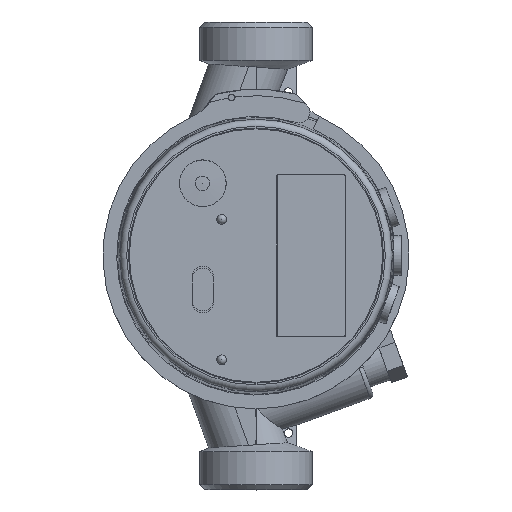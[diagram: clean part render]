
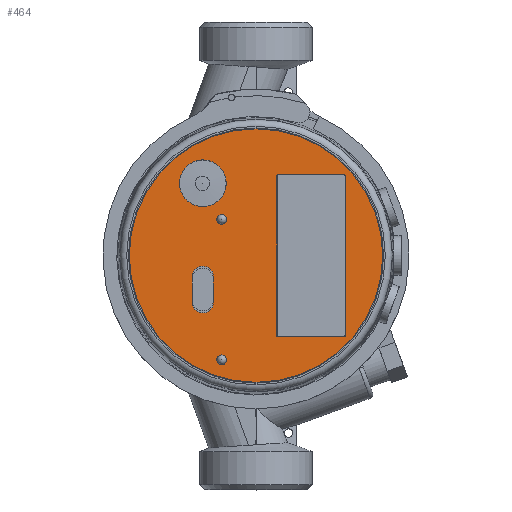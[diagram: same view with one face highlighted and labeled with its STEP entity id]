
A CAD part, top view. The second image highlights one B-rep face of the part: STEP entity #464.
In plain terms, the highlighted planar face has unit normal (0, 0, 1).
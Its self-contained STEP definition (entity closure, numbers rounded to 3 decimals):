
#464=ADVANCED_FACE('',(#5489,#5491,#5493,#5495,#5497,#5499),#5501,.T.);
#5489=FACE_BOUND('',#5490,.T.);
#5490=EDGE_LOOP('',(#8675));
#5491=FACE_BOUND('',#5492,.T.);
#5492=EDGE_LOOP('',(#8676,#8677,#8678,#8679,#8680,#8681,#8682,#8683));
#5493=FACE_BOUND('',#5494,.T.);
#5494=EDGE_LOOP('',(#8684));
#5495=FACE_BOUND('',#5496,.T.);
#5496=EDGE_LOOP('',(#8685));
#5497=FACE_BOUND('',#5498,.T.);
#5498=EDGE_LOOP('',(#8686));
#5499=FACE_BOUND('',#5500,.T.);
#5500=EDGE_LOOP('',(#8687,#8688,#8689,#8690,#8691,#8692,#8693,#8694));
#5501=PLANE('',#5502);
#5502=AXIS2_PLACEMENT_3D('',#5503,#5504,#5505);
#5503=CARTESIAN_POINT('',(0.,0.,58.8));
#5504=DIRECTION('',(0.,0.,1.));
#5505=DIRECTION('',(0.,1.,0.));
#8675=ORIENTED_EDGE('',*,*,#10481,.T.);
#8676=ORIENTED_EDGE('',*,*,#10482,.T.);
#8677=ORIENTED_EDGE('',*,*,#10483,.T.);
#8678=ORIENTED_EDGE('',*,*,#10484,.T.);
#8679=ORIENTED_EDGE('',*,*,#10485,.T.);
#8680=ORIENTED_EDGE('',*,*,#10486,.T.);
#8681=ORIENTED_EDGE('',*,*,#10487,.T.);
#8682=ORIENTED_EDGE('',*,*,#10488,.T.);
#8683=ORIENTED_EDGE('',*,*,#10489,.T.);
#8684=ORIENTED_EDGE('',*,*,#10490,.T.);
#8685=ORIENTED_EDGE('',*,*,#10491,.T.);
#8686=ORIENTED_EDGE('',*,*,#10492,.T.);
#8687=ORIENTED_EDGE('',*,*,#10493,.F.);
#8688=ORIENTED_EDGE('',*,*,#10494,.T.);
#8689=ORIENTED_EDGE('',*,*,#10495,.F.);
#8690=ORIENTED_EDGE('',*,*,#10496,.T.);
#8691=ORIENTED_EDGE('',*,*,#10497,.F.);
#8692=ORIENTED_EDGE('',*,*,#10498,.T.);
#8693=ORIENTED_EDGE('',*,*,#10499,.F.);
#8694=ORIENTED_EDGE('',*,*,#10500,.T.);
#10481=EDGE_CURVE('',#12637,#12637,#12638,.T.);
#10482=EDGE_CURVE('',#12639,#12640,#12641,.T.);
#10483=EDGE_CURVE('',#12640,#12642,#12643,.F.);
#10484=EDGE_CURVE('',#12642,#12644,#12645,.F.);
#10485=EDGE_CURVE('',#12644,#12646,#12647,.F.);
#10486=EDGE_CURVE('',#12646,#12648,#12649,.T.);
#10487=EDGE_CURVE('',#12648,#12650,#12651,.F.);
#10488=EDGE_CURVE('',#12650,#12652,#12653,.F.);
#10489=EDGE_CURVE('',#12652,#12639,#12654,.F.);
#10490=EDGE_CURVE('',#12655,#12655,#12656,.F.);
#10491=EDGE_CURVE('',#12657,#12657,#12658,.F.);
#10492=EDGE_CURVE('',#12659,#12659,#12660,.F.);
#10493=EDGE_CURVE('',#12661,#12662,#12663,.F.);
#10494=EDGE_CURVE('',#12661,#12664,#12665,.F.);
#10495=EDGE_CURVE('',#12666,#12664,#12667,.F.);
#10496=EDGE_CURVE('',#12666,#12668,#12669,.F.);
#10497=EDGE_CURVE('',#12670,#12668,#12671,.F.);
#10498=EDGE_CURVE('',#12670,#12672,#12673,.F.);
#10499=EDGE_CURVE('',#12674,#12672,#12675,.F.);
#10500=EDGE_CURVE('',#12674,#12662,#12676,.F.);
#12637=VERTEX_POINT('',#24341);
#12638=CIRCLE('',#24342,29.8);
#12639=VERTEX_POINT('',#24346);
#12640=VERTEX_POINT('',#24347);
#12641=LINE('',#24348,#24349);
#12642=VERTEX_POINT('',#24351);
#12643=LINE('',#24352,#24353);
#12644=VERTEX_POINT('',#24355);
#12645=CIRCLE('',#24356,2.5);
#12646=VERTEX_POINT('',#24360);
#12647=LINE('',#24361,#24362);
#12648=VERTEX_POINT('',#24364);
#12649=LINE('',#24365,#24366);
#12650=VERTEX_POINT('',#24368);
#12651=LINE('',#24369,#24370);
#12652=VERTEX_POINT('',#24372);
#12653=CIRCLE('',#24373,2.5);
#12654=LINE('',#24377,#24378);
#12655=VERTEX_POINT('',#24380);
#12656=CIRCLE('',#24381,1.15);
#12657=VERTEX_POINT('',#24385);
#12658=CIRCLE('',#24386,1.15);
#12659=VERTEX_POINT('',#24390);
#12660=CIRCLE('',#24391,5.5);
#12661=VERTEX_POINT('',#24395);
#12662=VERTEX_POINT('',#24396);
#12663=CIRCLE('',#24397,0.5);
#12664=VERTEX_POINT('',#24401);
#12665=LINE('',#24402,#24403);
#12666=VERTEX_POINT('',#24405);
#12667=CIRCLE('',#24406,0.3);
#12668=VERTEX_POINT('',#24410);
#12669=LINE('',#24411,#24412);
#12670=VERTEX_POINT('',#24414);
#12671=CIRCLE('',#24415,0.3);
#12672=VERTEX_POINT('',#24419);
#12673=LINE('',#24420,#24421);
#12674=VERTEX_POINT('',#24423);
#12675=CIRCLE('',#24424,0.5);
#12676=LINE('',#24428,#24429);
#24341=CARTESIAN_POINT('',(0.,29.8,58.8));
#24342=AXIS2_PLACEMENT_3D('',#24343,#24344,#24345);
#24343=CARTESIAN_POINT('',(0.,0.,58.8));
#24344=DIRECTION('',(0.,0.,1.));
#24345=DIRECTION('',(0.,1.,0.));
#24346=CARTESIAN_POINT('',(-15.,-10.5,58.8));
#24347=CARTESIAN_POINT('',(-15.,-5.5,58.8));
#24348=CARTESIAN_POINT('',(-15.,-10.5,58.8));
#24349=VECTOR('',#24350,1.);
#24350=DIRECTION('',(0.,1.,0.));
#24351=CARTESIAN_POINT('',(-15.,-5.,58.8));
#24352=CARTESIAN_POINT('',(-15.,-5.,58.8));
#24353=VECTOR('',#24354,1.);
#24354=DIRECTION('',(0.,-1.,0.));
#24355=CARTESIAN_POINT('',(-10.,-5.,58.8));
#24356=AXIS2_PLACEMENT_3D('',#24357,#24358,#24359);
#24357=CARTESIAN_POINT('',(-12.5,-5.,58.8));
#24358=DIRECTION('',(0.,0.,1.));
#24359=DIRECTION('',(1.,0.,0.));
#24360=CARTESIAN_POINT('',(-10.,-5.5,58.8));
#24361=CARTESIAN_POINT('',(-10.,-5.5,58.8));
#24362=VECTOR('',#24363,1.);
#24363=DIRECTION('',(0.,1.,0.));
#24364=CARTESIAN_POINT('',(-10.,-10.5,58.8));
#24365=CARTESIAN_POINT('',(-10.,-5.5,58.8));
#24366=VECTOR('',#24367,1.);
#24367=DIRECTION('',(0.,-1.,0.));
#24368=CARTESIAN_POINT('',(-10.,-11.,58.8));
#24369=CARTESIAN_POINT('',(-10.,-11.,58.8));
#24370=VECTOR('',#24371,1.);
#24371=DIRECTION('',(0.,1.,0.));
#24372=CARTESIAN_POINT('',(-15.,-11.,58.8));
#24373=AXIS2_PLACEMENT_3D('',#24374,#24375,#24376);
#24374=CARTESIAN_POINT('',(-12.5,-11.,58.8));
#24375=DIRECTION('',(0.,0.,1.));
#24376=DIRECTION('',(-1.,0.,0.));
#24377=CARTESIAN_POINT('',(-15.,-10.5,58.8));
#24378=VECTOR('',#24379,1.);
#24379=DIRECTION('',(0.,-1.,0.));
#24380=CARTESIAN_POINT('',(-8.07,-23.37,58.8));
#24381=AXIS2_PLACEMENT_3D('',#24382,#24383,#24384);
#24382=CARTESIAN_POINT('',(-8.07,-24.52,58.8));
#24383=DIRECTION('',(0.,0.,1.));
#24384=DIRECTION('',(0.,1.,0.));
#24385=CARTESIAN_POINT('',(-8.07,9.67,58.8));
#24386=AXIS2_PLACEMENT_3D('',#24387,#24388,#24389);
#24387=CARTESIAN_POINT('',(-8.07,8.52,58.8));
#24388=DIRECTION('',(0.,0.,1.));
#24389=DIRECTION('',(0.,1.,0.));
#24390=CARTESIAN_POINT('',(-12.5,22.5,58.8));
#24391=AXIS2_PLACEMENT_3D('',#24392,#24393,#24394);
#24392=CARTESIAN_POINT('',(-12.5,17.,58.8));
#24393=DIRECTION('',(0.,0.,1.));
#24394=DIRECTION('',(0.,1.,0.));
#24395=CARTESIAN_POINT('',(20.6,-19.1,58.8));
#24396=CARTESIAN_POINT('',(21.1,-18.6,58.8));
#24397=AXIS2_PLACEMENT_3D('',#24398,#24399,#24400);
#24398=CARTESIAN_POINT('',(20.6,-18.6,58.8));
#24399=DIRECTION('',(0.,0.,-1.));
#24400=DIRECTION('',(1.,0.,0.));
#24401=CARTESIAN_POINT('',(5.2,-19.1,58.8));
#24402=CARTESIAN_POINT('',(5.2,-19.1,58.8));
#24403=VECTOR('',#24404,1.);
#24404=DIRECTION('',(1.,0.,0.));
#24405=CARTESIAN_POINT('',(4.9,-18.8,58.8));
#24406=AXIS2_PLACEMENT_3D('',#24407,#24408,#24409);
#24407=CARTESIAN_POINT('',(5.2,-18.8,58.8));
#24408=DIRECTION('',(0.,0.,-1.));
#24409=DIRECTION('',(0.,-1.,0.));
#24410=CARTESIAN_POINT('',(4.9,18.8,58.8));
#24411=CARTESIAN_POINT('',(4.9,18.8,58.8));
#24412=VECTOR('',#24413,1.);
#24413=DIRECTION('',(0.,-1.,0.));
#24414=CARTESIAN_POINT('',(5.2,19.1,58.8));
#24415=AXIS2_PLACEMENT_3D('',#24416,#24417,#24418);
#24416=CARTESIAN_POINT('',(5.2,18.8,58.8));
#24417=DIRECTION('',(0.,0.,-1.));
#24418=DIRECTION('',(-1.,0.,0.));
#24419=CARTESIAN_POINT('',(20.6,19.1,58.8));
#24420=CARTESIAN_POINT('',(20.6,19.1,58.8));
#24421=VECTOR('',#24422,1.);
#24422=DIRECTION('',(-1.,0.,0.));
#24423=CARTESIAN_POINT('',(21.1,18.6,58.8));
#24424=AXIS2_PLACEMENT_3D('',#24425,#24426,#24427);
#24425=CARTESIAN_POINT('',(20.6,18.6,58.8));
#24426=DIRECTION('',(0.,0.,-1.));
#24427=DIRECTION('',(0.,1.,0.));
#24428=CARTESIAN_POINT('',(21.1,-18.6,58.8));
#24429=VECTOR('',#24430,1.);
#24430=DIRECTION('',(0.,1.,0.));
